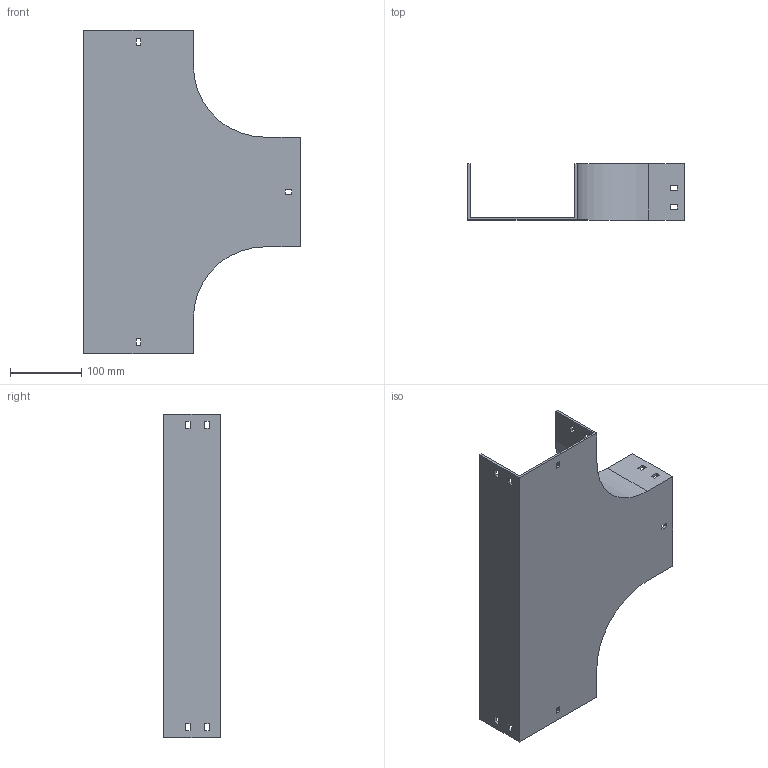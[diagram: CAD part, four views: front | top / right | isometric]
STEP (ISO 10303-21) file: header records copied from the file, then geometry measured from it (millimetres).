
FILE_DESCRIPTION (( 'STEP AP214' ), '1' );
FILE_NAME ('15B1C150.step', '2025-02-21T09:55:13', ( '' ), ( '' ), 'SwSTEP 2.0', 'SolidWorks 2023', '' );
FILE_SCHEMA (( 'AUTOMOTIVE_DESIGN' ));
Length unit declared in the file: millimetre
Products named in the file (1): 15B1C150
Bounding box: 304 x 79 x 454 mm (x, y, z)
Volume: 594312.8 mm3; surface area: 347951.8 mm2
Topology: 1 solids, 1 shells, 82 faces, 240 edges, 160 vertices
Faces by surface type: plane 78, cylinder 4
Entity records: 2755 total; most frequent: CARTESIAN_POINT 483, ORIENTED_EDGE 480, DIRECTION 414, EDGE_CURVE 240, LINE 232, VECTOR 232, VERTEX_POINT 160, EDGE_LOOP 112
